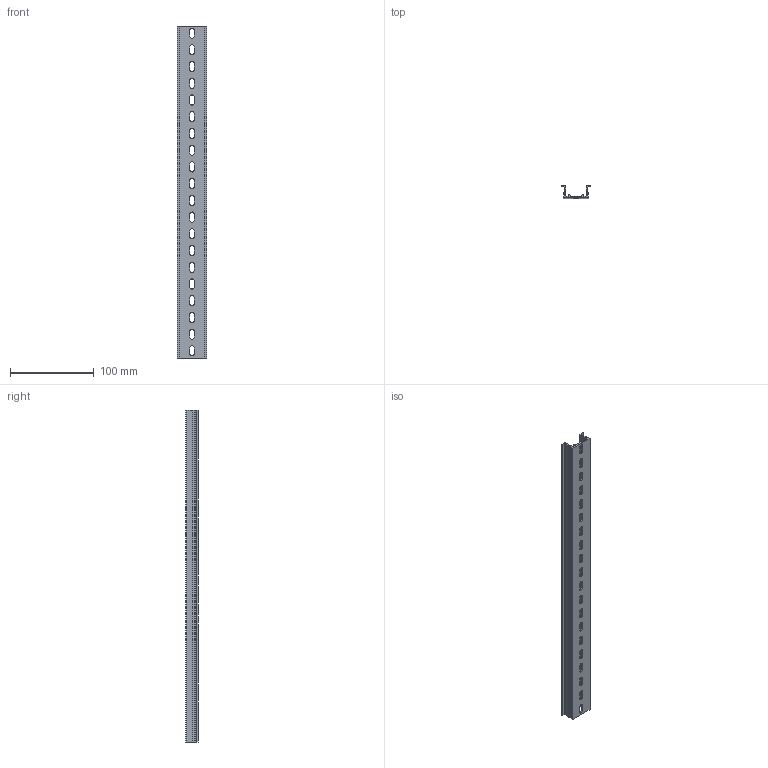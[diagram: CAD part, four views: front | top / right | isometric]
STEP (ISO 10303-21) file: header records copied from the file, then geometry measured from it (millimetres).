
FILE_DESCRIPTION(/* description */ (''),/* implementation_level */ '2;1');
FILE_NAME(/* name */ '22648-(TKB KD-20)HP 3D.stp',/* time_stamp */ '2024-12-05T14:02:48+09:00',/* author */ ('usercadg104'),/* organization */ (''),/* preprocessor_version */ 'ST-DEVELOPER v19.2',/* originating_system */ 'Autodesk Inventor 2023',/* authorisation */ '');
FILE_SCHEMA (('CONFIG_CONTROL_DESIGN'));
Length unit declared in the file: millimetre
Products named in the file (1): TKB KD-3(林)
Bounding box: 35 x 15 x 397 mm (x, y, z)
Volume: 46439.9 mm3; surface area: 53753.2 mm2
Topology: 1 solids, 1 shells, 120 faces, 354 edges, 236 vertices
Faces by surface type: plane 76, cylinder 44
Entity records: 4129 total; most frequent: CARTESIAN_POINT 711, ORIENTED_EDGE 708, DIRECTION 684, EDGE_CURVE 354, LINE 266, VECTOR 266, VERTEX_POINT 236, AXIS2_PLACEMENT_3D 209
